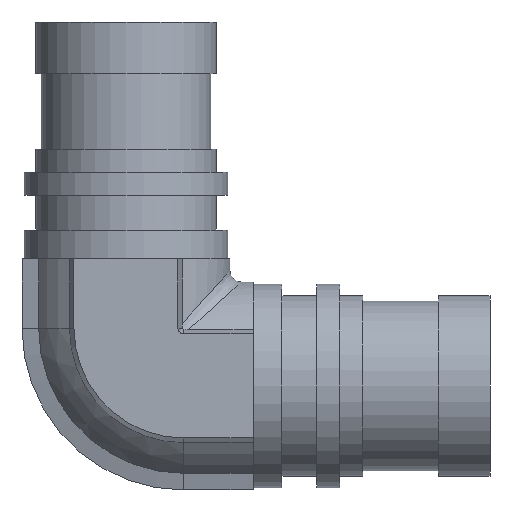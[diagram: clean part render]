
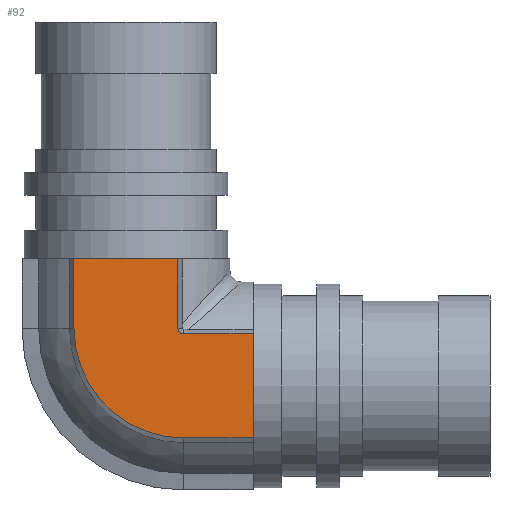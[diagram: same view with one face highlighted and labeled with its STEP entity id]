
A CAD part, front view. The second image highlights one B-rep face of the part: STEP entity #92.
In plain terms, the highlighted planar face has unit normal (0, -1, 0).
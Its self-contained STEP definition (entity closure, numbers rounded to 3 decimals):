
#92 = ADVANCED_FACE( '', ( #179 ), #180, .F. );
#179 = FACE_OUTER_BOUND( '', #546, .T. );
#180 = PLANE( '', #547 );
#546 = EDGE_LOOP( '', ( #851, #852, #853, #854, #855, #856, #857, #858 ) );
#547 = AXIS2_PLACEMENT_3D( '', #859, #860, #861 );
#851 = ORIENTED_EDGE( '', *, *, #1177, .T. );
#852 = ORIENTED_EDGE( '', *, *, #1195, .F. );
#853 = ORIENTED_EDGE( '', *, *, #1196, .T. );
#854 = ORIENTED_EDGE( '', *, *, #1170, .T. );
#855 = ORIENTED_EDGE( '', *, *, #1148, .T. );
#856 = ORIENTED_EDGE( '', *, *, #1166, .F. );
#857 = ORIENTED_EDGE( '', *, *, #1197, .F. );
#858 = ORIENTED_EDGE( '', *, *, #1198, .T. );
#859 = CARTESIAN_POINT( '', ( -4.5, -9., 5. ) );
#860 = DIRECTION( '', ( 0., 1., 0. ) );
#861 = DIRECTION( '', ( 0., 0., 1. ) );
#1148 = EDGE_CURVE( '', #1280, #1278, #1281, .T. );
#1166 = EDGE_CURVE( '', #1309, #1278, #1311, .T. );
#1170 = EDGE_CURVE( '', #1316, #1280, #1317, .T. );
#1177 = EDGE_CURVE( '', #1330, #1328, #1331, .T. );
#1195 = EDGE_CURVE( '', #1358, #1328, #1360, .T. );
#1196 = EDGE_CURVE( '', #1358, #1316, #1361, .T. );
#1197 = EDGE_CURVE( '', #1362, #1309, #1363, .T. );
#1198 = EDGE_CURVE( '', #1362, #1330, #1364, .T. );
#1278 = VERTEX_POINT( '', #1486 );
#1280 = VERTEX_POINT( '', #1489 );
#1281 = LINE( '', #1490, #1491 );
#1309 = VERTEX_POINT( '', #1615 );
#1311 = LINE( '', #1618, #1619 );
#1316 = VERTEX_POINT( '', #1627 );
#1317 = LINE( '', #1628, #1629 );
#1328 = VERTEX_POINT( '', #1644 );
#1330 = VERTEX_POINT( '', #1647 );
#1331 = LINE( '', #1648, #1649 );
#1358 = VERTEX_POINT( '', #1688 );
#1360 = LINE( '', #1691, #1692 );
#1361 = CIRCLE( '', #1693, 9.5 );
#1362 = VERTEX_POINT( '', #1694 );
#1363 = CIRCLE( '', #1695, 0.5 );
#1364 = LINE( '', #1696, #1697 );
#1486 = CARTESIAN_POINT( '', ( 11., -9., 4.5 ) );
#1489 = CARTESIAN_POINT( '', ( 11., -9., -4.5 ) );
#1490 = CARTESIAN_POINT( '', ( 11., -9., -4.5 ) );
#1491 = VECTOR( '', #1822, 1000. );
#1615 = CARTESIAN_POINT( '', ( 5., -9., 4.5 ) );
#1618 = CARTESIAN_POINT( '', ( 5., -9., 4.5 ) );
#1619 = VECTOR( '', #1842, 1000. );
#1627 = CARTESIAN_POINT( '', ( 5., -9., -4.5 ) );
#1628 = CARTESIAN_POINT( '', ( 5., -9., -4.5 ) );
#1629 = VECTOR( '', #1846, 1000. );
#1644 = CARTESIAN_POINT( '', ( -4.5, -9., 11. ) );
#1647 = CARTESIAN_POINT( '', ( 4.5, -9., 11. ) );
#1648 = CARTESIAN_POINT( '', ( -4.5, -9., 11. ) );
#1649 = VECTOR( '', #1855, 1000. );
#1688 = CARTESIAN_POINT( '', ( -4.5, -9., 5. ) );
#1691 = CARTESIAN_POINT( '', ( -4.5, -9., 5. ) );
#1692 = VECTOR( '', #1881, 1000. );
#1693 = AXIS2_PLACEMENT_3D( '', #1882, #1883, #1884 );
#1694 = CARTESIAN_POINT( '', ( 4.5, -9., 5. ) );
#1695 = AXIS2_PLACEMENT_3D( '', #1885, #1886, #1887 );
#1696 = CARTESIAN_POINT( '', ( 4.5, -9., 5. ) );
#1697 = VECTOR( '', #1888, 1000. );
#1822 = DIRECTION( '', ( 0., 0., 1. ) );
#1842 = DIRECTION( '', ( 1., 0., 0. ) );
#1846 = DIRECTION( '', ( 1., 0., 0. ) );
#1855 = DIRECTION( '', ( -1., 0., 0. ) );
#1881 = DIRECTION( '', ( 0., 0., 1. ) );
#1882 = CARTESIAN_POINT( '', ( 5., -9., 5. ) );
#1883 = DIRECTION( '', ( 0., -1., 0. ) );
#1884 = DIRECTION( '', ( 0., 0., -1. ) );
#1885 = CARTESIAN_POINT( '', ( 5., -9., 5. ) );
#1886 = DIRECTION( '', ( 0., -1., 0. ) );
#1887 = DIRECTION( '', ( 0., 0., -1. ) );
#1888 = DIRECTION( '', ( 0., 0., 1. ) );
